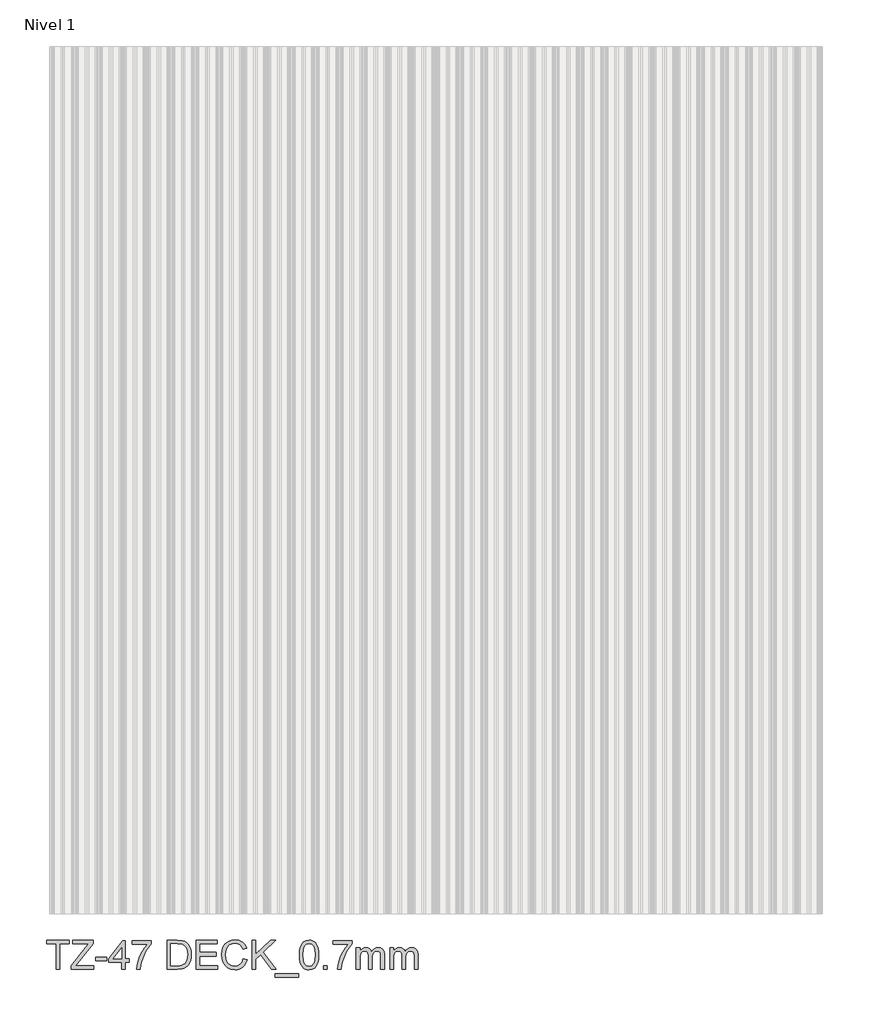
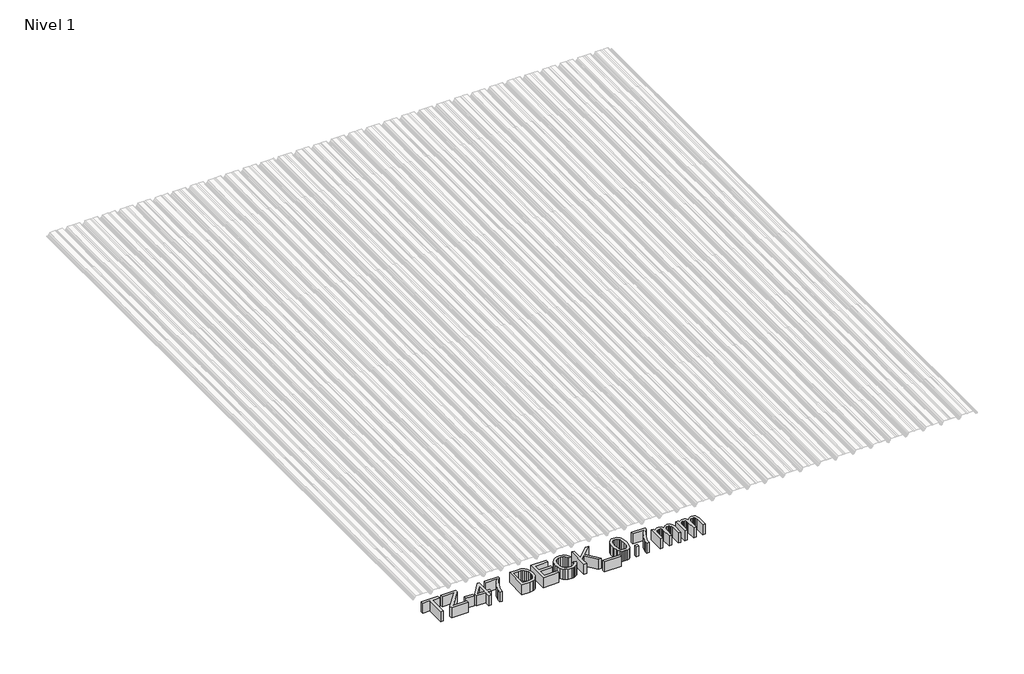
# One storey, part 3 of 4: 1 proxy, 1 roof.
"""IFC4 building model written with IfcOpenShell, lengths in millimetres."""

from ifc_helpers import new_model, si_unit, point, frame, frame_2d, origin, origin_with_axes, place, context, project, spatial, polyline, circle_curve, trimmed, segment, composite_curve, outline, extrude, element, save

model = new_model("IFC4")

# Units and contexts
model_context = context("Model", 3, world=origin())
ifc_project = project(units=[si_unit("LENGTHUNIT", "METRE", prefix="MILLI")], contexts=[model_context])

# Site, building, storey
site = spatial("IfcSite", under=ifc_project)
building = spatial("IfcBuilding", under=site)
storey = spatial("IfcBuildingStorey", under=building, Name="Nivel 1", Elevation=0.0)

# Proxy
placement = place(None, origin())
element("IfcBuildingElementProxy", 1, Name="Texto de modelo 1", ObjectType="Texto de modelo 1", at=placement, inside=storey, context=model_context, shape_type="SweptSolid", body=[
    extrude(outline(polyline([(-12104.9518456, -3789.0115797), (-12104.9518456, -3525.3137656), (-12203.8385259, -3525.3137656), (-12203.8385259, -3487.6426493), (-11968.394049, -3487.6426493), (-11968.394049, -3525.3137656), (-12067.2807293, -3525.3137656), (-12067.2807293, -3789.0115797), (-12104.9518456, -3789.0115797)])), origin_with_axes(), (0.0, 0.0, 1.0), 150.0),
    extrude(outline(polyline([(-11949.5584908, -3789.0115797), (-11949.5584908, -3749.9425118), (-11795.4159348, -3561.2190483), (-11766.132528, -3525.3137656), (-11930.7229326, -3525.3137656), (-11930.7229326, -3487.6426493), (-11718.8229034, -3487.6426493), (-11718.8229034, -3525.3137656), (-11887.5335864, -3731.8427177), (-11903.4260886, -3751.3404634), (-11714.1140139, -3751.3404634), (-11714.1140139, -3789.0115797), (-11949.5584908, -3789.0115797)])), origin_with_axes(), (0.0, 0.0, 1.0), 150.0),
    extrude(outline(polyline([(-11695.2784557, -3699.5426785), (-11695.2784557, -3661.8715622), (-11577.5562173, -3661.8715622), (-11577.5562173, -3699.5426785), (-11695.2784557, -3699.5426785)])), origin_with_axes(), (0.0, 0.0, 1.0), 150.0),
    extrude(outline(polyline([(-11422.1628625, -3789.0115797), (-11422.1628625, -3718.3782367), (-11558.7206591, -3718.3782367), (-11558.7206591, -3680.7071204), (-11412.7450834, -3492.3515388), (-11384.4917462, -3492.3515388), (-11384.4917462, -3680.7071204), (-11346.8206299, -3680.7071204), (-11346.8206299, -3718.3782367), (-11384.4917462, -3718.3782367), (-11384.4917462, -3789.0115797), (-11422.1628625, -3789.0115797)]), holes=[polyline([(-11422.1628625, -3680.7071204), (-11422.1628625, -3564.3092571), (-11512.3675277, -3680.7071204), (-11422.1628625, -3680.7071204)])]), origin_with_axes(), (0.0, 0.0, 1.0), 150.0),
    extrude(outline(polyline([(-11313.8584031, -3530.0226551), (-11313.8584031, -3492.3515388), (-11116.0850425, -3492.3515388), (-11116.0850425, -3522.812168), (-11144.2740004, -3558.4875245), (-11172.1870468, -3603.8565716), (-11196.8075493, -3654.7806367), (-11215.1188756, -3707.1210476), (-11224.0951963, -3746.282086), (-11229.0983914, -3789.0115797), (-11266.7695078, -3789.0115797), (-11262.6952147, -3750.1816351), (-11251.7967105, -3704.0308388), (-11234.368301, -3655.1117305), (-11210.7042917, -3607.9768499), (-11183.0763538, -3565.3669178), (-11153.7561588, -3530.0226551), (-11313.8584031, -3530.0226551)])), origin_with_axes(), (0.0, 0.0, 1.0), 150.0),
    extrude(outline(polyline([(-10951.2739087, -3789.0115797), (-10951.2739087, -3487.6426493), (-10847.3104568, -3487.6426493), (-10793.5261092, -3491.9836568), (-10769.5034149, -3500.3529722), (-10749.2331169, -3513.5415417), (-10728.3926019, -3536.4973782), (-10713.5485634, -3565.0450211), (-10704.6642132, -3598.6326472), (-10701.7027632, -3636.7084337), (-10703.70772, -3669.0544582), (-10709.7225907, -3697.5193275), (-10718.8828523, -3721.753554), (-10730.3239824, -3741.4076496), (-10743.4941578, -3756.9230727), (-10757.8415556, -3768.7412818), (-10774.313472, -3777.5060703), (-10793.857203, -3783.8612318), (-10842.3072617, -3789.0115797), (-10951.2739087, -3789.0115797)]), holes=[polyline([(-10913.6027924, -3751.3404634), (-10846.9425749, -3751.3404634), (-10819.3698193, -3749.9793), (-10798.4557279, -3745.8958099), (-10782.6735903, -3739.3291163), (-10770.4966963, -3730.5183425), (-10757.4092943, -3714.2119731), (-10747.577648, -3693.1047436), (-10741.4248216, -3667.1046836), (-10739.3738795, -3636.1198225), (-10743.3929903, -3595.0641919), (-10755.4503227, -3564.7507155), (-10773.2650083, -3543.9285945), (-10794.5561787, -3531.3470303), (-10816.2244283, -3526.8220818), (-10847.9726444, -3525.3137656), (-10913.6027924, -3525.3137656), (-10913.6027924, -3751.3404634)])]), origin_with_axes(), (0.0, 0.0, 1.0), 150.0),
    extrude(outline(polyline([(-10649.9049782, -3789.0115797), (-10649.9049782, -3487.6426493), (-10433.2960595, -3487.6426493), (-10433.2960595, -3525.3137656), (-10612.2338619, -3525.3137656), (-10612.2338619, -3614.7826668), (-10442.7138386, -3614.7826668), (-10442.7138386, -3652.4537831), (-10612.2338619, -3652.4537831), (-10612.2338619, -3751.3404634), (-10428.5871699, -3751.3404634), (-10428.5871699, -3789.0115797), (-10649.9049782, -3789.0115797)])), origin_with_axes(), (0.0, 0.0, 1.0), 150.0),
    extrude(outline(polyline([(-10160.1804663, -3681.8843427), (-10122.50935, -3691.5964274), (-10129.9635589, -3715.0236127), (-10139.8917742, -3735.4939465), (-10152.293996, -3753.0074287), (-10167.1702242, -3767.5640594), (-10184.1847664, -3779.0074887), (-10203.0019305, -3787.1813668), (-10223.6217163, -3792.0856937), (-10246.0441239, -3793.7204693), (-10289.7393079, -3788.7724564), (-10324.4397771, -3773.9284179), (-10351.0376454, -3749.7033885), (-10370.4250265, -3716.6124031), (-10382.2616297, -3677.7088821), (-10386.2071641, -3636.0462461), (-10381.7465949, -3592.1027418), (-10368.3648873, -3554.155714), (-10346.7610172, -3523.4099763), (-10317.6339602, -3501.0703421), (-10283.0898408, -3487.4679053), (-10245.2347835, -3482.9337597), (-10203.9308325, -3488.8014776), (-10185.9620963, -3496.1361248), (-10169.7821863, -3506.404631), (-10155.657817, -3519.3356832), (-10143.8557027, -3534.6579683), (-10127.2182395, -3572.4762374), (-10164.8893558, -3581.4525581), (-10177.9491666, -3553.9809701), (-10195.7914434, -3535.1362149), (-10218.6369153, -3524.2377108), (-10246.7063115, -3520.6048761), (-10279.061533, -3524.6331839), (-10305.6410072, -3536.7181074), (-10325.8101375, -3555.5904538), (-10338.9343277, -3579.9810301), (-10346.1356178, -3607.5537856), (-10348.5360478, -3635.9726697), (-10345.6941594, -3670.7743065), (-10337.1684941, -3700.8670537), (-10322.6371553, -3725.1012801), (-10301.7782462, -3742.3273545), (-10276.7714676, -3752.6188534), (-10249.7965203, -3756.049353), (-10218.3518067, -3751.3772516), (-10192.1494116, -3737.3609476), (-10172.3665573, -3714.1475937), (-10160.1804663, -3681.8843427)])), origin_with_axes(), (0.0, 0.0, 1.0), 150.0),
    extrude(outline(polyline([(-10070.711565, -3789.0115797), (-10070.711565, -3487.6426493), (-10033.0404487, -3487.6426493), (-10033.0404487, -3635.1633294), (-9878.5300108, -3487.6426493), (-9825.849309, -3487.6426493), (-9955.5645005, -3611.5453053), (-9821.1404195, -3789.0115797), (-9867.1992453, -3789.0115797), (-9982.2727334, -3637.0027393), (-10033.0404487, -3685.4160099), (-10033.0404487, -3789.0115797), (-10070.711565, -3789.0115797)])), origin_with_axes(), (0.0, 0.0, 1.0), 150.0),
    extrude(outline(polyline([(-9830.5581986, -3873.7715914), (-9830.5581986, -3836.1004751), (-9585.6959426, -3836.1004751), (-9585.6959426, -3873.7715914), (-9830.5581986, -3873.7715914)])), origin_with_axes(), (0.0, 0.0, 1.0), 150.0),
    extrude(outline(polyline([(-9576.2781635, -3640.7551357), (-9573.5098515, -3592.5166091), (-9565.2049155, -3554.0453494), (-9551.4461288, -3524.7527455), (-9532.3162651, -3504.0501863), (-9507.6773685, -3491.7445335), (-9477.3914832, -3487.6426493), (-9454.1781293, -3490.0706705), (-9433.3927966, -3497.354734), (-9416.0103723, -3509.2097313), (-9403.0057438, -3525.3505538), (-9393.1832945, -3545.6392458), (-9385.347408, -3569.9378516), (-9380.2154542, -3600.793954), (-9378.5048029, -3640.7551357), (-9381.2455238, -3688.7177508), (-9389.4676864, -3727.0970399), (-9403.1436995, -3756.417235), (-9422.2459721, -3777.2025677), (-9446.9400511, -3789.5909939), (-9477.3914832, -3793.7204693), (-9498.1400277, -3791.9270445), (-9516.5341275, -3786.5467704), (-9532.5737825, -3777.5796467), (-9546.2589927, -3765.0256736), (-9559.3923799, -3742.3319531), (-9568.7733708, -3714.0556232), (-9574.4019653, -3680.1966841), (-9576.2781635, -3640.7551357)]), holes=[polyline([(-9538.6070472, -3640.6815593), (-9534.1924633, -3699.9381517), (-9528.6742333, -3720.2061503), (-9520.9487114, -3734.2339507), (-9501.2302365, -3750.5955024), (-9477.3914832, -3756.049353), (-9453.5527299, -3750.5771083), (-9433.834255, -3734.1603743), (-9426.1087331, -3720.1095813), (-9420.5905032, -3699.8461812), (-9416.1759192, -3640.6815593), (-9420.4433504, -3582.7585391), (-9425.7776393, -3562.5572191), (-9433.2456438, -3548.1960257), (-9452.9273305, -3531.0343306), (-9477.8329416, -3525.3137656), (-9501.4141775, -3530.3537489), (-9520.3601002, -3545.4736989), (-9528.3431395, -3561.1086837), (-9534.0453105, -3582.188322), (-9538.6070472, -3640.6815593)])]), origin_with_axes(), (0.0, 0.0, 1.0), 150.0),
    extrude(outline(polyline([(-9326.707018, -3789.0115797), (-9326.707018, -3751.3404634), (-9289.0359017, -3751.3404634), (-9289.0359017, -3789.0115797), (-9326.707018, -3789.0115797)])), origin_with_axes(), (0.0, 0.0, 1.0), 150.0),
    extrude(outline(polyline([(-9227.8203377, -3530.0226551), (-9227.8203377, -3492.3515388), (-9030.0469771, -3492.3515388), (-9030.0469771, -3522.812168), (-9058.235935, -3558.4875245), (-9086.1489813, -3603.8565716), (-9110.7694839, -3654.7806367), (-9129.0808102, -3707.1210476), (-9138.0571309, -3746.282086), (-9143.060326, -3789.0115797), (-9180.7314423, -3789.0115797), (-9176.6571492, -3750.1816351), (-9165.7586451, -3704.0308388), (-9148.3302356, -3655.1117305), (-9124.6662262, -3607.9768499), (-9097.0382884, -3565.3669178), (-9067.7180934, -3530.0226551), (-9227.8203377, -3530.0226551)])), origin_with_axes(), (0.0, 0.0, 1.0), 150.0),
    extrude(outline(polyline([(-8987.6669712, -3789.0115797), (-8987.6669712, -3567.6937714), (-8949.9958549, -3567.6937714), (-8949.9958549, -3604.114089), (-8938.6650895, -3587.3846552), (-8924.0969625, -3574.2788591), (-8906.7881146, -3565.8083762), (-8887.2351865, -3562.9848819), (-8866.2843069, -3565.8635585), (-8849.4904938, -3574.4995883), (-8836.9457178, -3588.3227543), (-8828.7419493, -3606.7628393), (-8815.0107538, -3587.6099829), (-8799.3481779, -3573.9293713), (-8781.7542215, -3565.7210042), (-8762.2288846, -3562.9848819), (-8733.911168, -3567.5374216), (-8712.9694854, -3581.1950407), (-8700.0292363, -3604.3256211), (-8695.7158199, -3637.2970449), (-8695.7158199, -3789.0115797), (-8733.3869362, -3789.0115797), (-8733.3869362, -3653.4838527), (-8736.8818151, -3622.0299421), (-8741.7930398, -3613.3571241), (-8749.5369558, -3606.5421101), (-8759.4973608, -3602.1275262), (-8771.0580525, -3600.6559982), (-8791.4663062, -3604.4267887), (-8808.1037694, -3615.73916), (-8819.1678204, -3635.3656644), (-8822.8558374, -3664.0788542), (-8822.8558374, -3789.0115797), (-8860.5269537, -3789.0115797), (-8860.5269537, -3649.289998), (-8862.7066545, -3627.9896304), (-8869.245757, -3612.796104), (-8880.7512664, -3603.6910247), (-8897.830188, -3600.6559982), (-8912.3431327, -3602.6793492), (-8925.7156432, -3608.7494021), (-8936.7521031, -3618.7190042), (-8944.2568958, -3632.4410026), (-8948.5611151, -3651.4788958), (-8949.9958549, -3677.3961824), (-8949.9958549, -3789.0115797), (-8987.6669712, -3789.0115797)])), origin_with_axes(), (0.0, 0.0, 1.0), 150.0),
    extrude(outline(polyline([(-8639.2091454, -3789.0115797), (-8639.2091454, -3567.6937714), (-8601.5380291, -3567.6937714), (-8601.5380291, -3604.114089), (-8590.2072636, -3587.3846552), (-8575.6391366, -3574.2788591), (-8558.3302888, -3565.8083762), (-8538.7773607, -3562.9848819), (-8517.8264811, -3565.8635585), (-8501.032668, -3574.4995883), (-8488.487892, -3588.3227543), (-8480.2841235, -3606.7628393), (-8466.552928, -3587.6099829), (-8450.8903521, -3573.9293713), (-8433.2963956, -3565.7210042), (-8413.7710588, -3562.9848819), (-8385.4533422, -3567.5374216), (-8364.5116596, -3581.1950407), (-8351.5714104, -3604.3256211), (-8347.257994, -3637.2970449), (-8347.257994, -3789.0115797), (-8384.9291103, -3789.0115797), (-8384.9291103, -3653.4838527), (-8388.4239893, -3622.0299421), (-8393.3352139, -3613.3571241), (-8401.0791299, -3606.5421101), (-8411.0395349, -3602.1275262), (-8422.6002266, -3600.6559982), (-8443.0084803, -3604.4267887), (-8459.6459436, -3615.73916), (-8470.7099946, -3635.3656644), (-8474.3980116, -3664.0788542), (-8474.3980116, -3789.0115797), (-8512.0691279, -3789.0115797), (-8512.0691279, -3649.289998), (-8514.2488287, -3627.9896304), (-8520.7879312, -3612.796104), (-8532.2934406, -3603.6910247), (-8549.3723622, -3600.6559982), (-8563.8853069, -3602.6793492), (-8577.2578174, -3608.7494021), (-8588.2942773, -3618.7190042), (-8595.79907, -3632.4410026), (-8600.1032893, -3651.4788958), (-8601.5380291, -3677.3961824), (-8601.5380291, -3789.0115797), (-8639.2091454, -3789.0115797)])), origin_with_axes(), (0.0, 0.0, 1.0), 150.0),
])

# Roof
element("IfcRoof", 2, ObjectType="Panel_TZ-47 DECK : TZ-47 DECK_0.7mm", at=placement, inside=storey, context=model_context, shape_type="SweptSolid", body=[
    extrude(outline(composite_curve([segment(trimmed(circle_curve(frame_2d((44.0, -4199.974182)), 2.5), [point((46.5, -4199.974182))], [point((44.9953639, -4197.6808764))], True, "CARTESIAN"), True, "CONTINUOUS"), segment(polyline([(44.9953639, -4197.6808764), (19.8835868, -4186.7816062)]), True, "CONTINUOUS"), segment(trimmed(circle_curve(frame_2d((21.0780235, -4184.0296395)), 3.0), [point((19.8835868, -4186.7816062))], [point((18.397439, -4185.3766608))], False, "CARTESIAN"), True, "CONTINUOUS"), segment(polyline([(18.397439, -4185.3766608), (14.779315, -4178.1765619)]), True, "CONTINUOUS"), segment(trimmed(circle_curve(frame_2d((12.9922586, -4179.0745762)), 2.0), [point((14.779315, -4178.1765619))], [point((13.6209063, -4177.1759445))], True, "CARTESIAN"), True, "CONTINUOUS"), segment(polyline([(13.6209063, -4177.1759445), (2.3998665, -4173.4605946)]), True, "CONTINUOUS"), segment(trimmed(circle_curve(frame_2d((3.5, -4170.1379893)), 3.5), [point((2.3998665, -4173.4605946))], [point((0.0, -4170.1379893))], False, "CARTESIAN"), True, "CONTINUOUS"), segment(polyline([(0.0, -4170.1379893), (0.0, -4155.1939812)]), True, "CONTINUOUS"), segment(trimmed(circle_curve(frame_2d((3.5, -4155.1939812)), 3.5), [point((0.0, -4155.1939812))], [point((2.3998665, -4151.8713758))], False, "CARTESIAN"), True, "CONTINUOUS"), segment(polyline([(2.3998665, -4151.8713758), (7.5945265, -4150.1513944)]), True, "CONTINUOUS"), segment(trimmed(circle_curve(frame_2d((8.2231742, -4152.0500261)), 2.0), [point((7.5945265, -4150.1513944))], [point((9.1194865, -4150.2621155))], False, "CARTESIAN"), True, "CONTINUOUS"), segment(trimmed(circle_curve(frame_2d((9.5655913, -4149.3598691)), 1.0065078), [point((9.1194865, -4150.2621155))], [point((9.8819608, -4150.3153629))], True, "CARTESIAN"), True, "CONTINUOUS"), segment(polyline([(9.8819608, -4150.3153629), (13.4343573, -4149.1391443), (13.6858163, -4149.8985969), (10.1334198, -4151.0748156)]), True, "CONTINUOUS"), segment(trimmed(circle_curve(frame_2d((9.5655913, -4149.3598691)), 1.8065078), [point((10.1334198, -4151.0748156))], [point((8.7624057, -4150.9780049))], False, "CARTESIAN"), True, "CONTINUOUS"), segment(trimmed(circle_curve(frame_2d((8.2231742, -4152.0500261)), 1.2), [point((8.7624057, -4150.9780049))], [point((7.8459856, -4150.9108471))], True, "CARTESIAN"), True, "CONTINUOUS"), segment(polyline([(7.8459856, -4150.9108471), (2.6513256, -4152.6308285)]), True, "CONTINUOUS"), segment(trimmed(circle_curve(frame_2d((3.5, -4155.1939812)), 2.7), [point((2.6513256, -4152.6308285))], [point((0.8, -4155.1939812))], True, "CARTESIAN"), True, "CONTINUOUS"), segment(polyline([(0.8, -4155.1939812), (0.8, -4170.1379893)]), True, "CONTINUOUS"), segment(trimmed(circle_curve(frame_2d((3.5, -4170.1379893)), 2.7), [point((0.8, -4170.1379893))], [point((2.6513256, -4172.701142))], True, "CARTESIAN"), True, "CONTINUOUS"), segment(polyline([(2.6513256, -4172.701142), (13.8723654, -4176.4164919)]), True, "CONTINUOUS"), segment(trimmed(circle_curve(frame_2d((12.9922586, -4179.0745762)), 2.8), [point((13.8723654, -4176.4164919))], [point((15.4941375, -4177.8173562))], False, "CARTESIAN"), True, "CONTINUOUS"), segment(polyline([(15.4941375, -4177.8173562), (19.1122615, -4185.0174551)]), True, "CONTINUOUS"), segment(trimmed(circle_curve(frame_2d((21.0780235, -4184.0296395)), 2.2), [point((19.1122615, -4185.0174551))], [point((20.2021032, -4186.0477484))], True, "CARTESIAN"), True, "CONTINUOUS"), segment(polyline([(20.2021032, -4186.0477484), (45.3138804, -4196.9470186)]), True, "CONTINUOUS"), segment(trimmed(circle_curve(frame_2d((44.0, -4199.974182)), 3.3), [point((45.3138804, -4196.9470186))], [point((47.3, -4199.974182))], False, "CARTESIAN"), True, "CONTINUOUS"), segment(polyline([(47.3, -4199.974182), (47.3, -4267.6956911), (43.3922323, -4287.2345297)]), True, "CONTINUOUS"), segment(trimmed(circle_curve(frame_2d((45.5495098, -4287.6659852)), 2.2), [point((43.3922323, -4287.2345297))], [point((43.3922323, -4288.0974407))], True, "CARTESIAN"), True, "CONTINUOUS"), segment(polyline([(43.3922323, -4288.0974407), (47.3, -4307.6362794), (47.3, -4375.3577884)]), True, "CONTINUOUS"), segment(trimmed(circle_curve(frame_2d((44.0, -4375.3577884)), 3.3), [point((47.3, -4375.3577884))], [point((45.3138804, -4378.3849518))], False, "CARTESIAN"), True, "CONTINUOUS"), segment(polyline([(45.3138804, -4378.3849518), (20.2021032, -4389.284222)]), True, "CONTINUOUS"), segment(trimmed(circle_curve(frame_2d((21.0780235, -4391.302331)), 2.2), [point((20.2021032, -4389.284222))], [point((19.1122615, -4390.3145153))], True, "CARTESIAN"), True, "CONTINUOUS"), segment(polyline([(19.1122615, -4390.3145153), (15.4941375, -4397.5146142)]), True, "CONTINUOUS"), segment(trimmed(circle_curve(frame_2d((12.9922586, -4396.2573943)), 2.8), [point((15.4941375, -4397.5146142))], [point((13.8723654, -4398.9154786))], False, "CARTESIAN"), True, "CONTINUOUS"), segment(polyline([(13.8723654, -4398.9154786), (2.6513256, -4402.6308285)]), True, "CONTINUOUS"), segment(trimmed(circle_curve(frame_2d((3.5, -4405.1939812)), 2.7), [point((2.6513256, -4402.6308285))], [point((0.8, -4405.1939812))], True, "CARTESIAN"), True, "CONTINUOUS"), segment(polyline([(0.8, -4405.1939812), (0.8, -4420.1379893)]), True, "CONTINUOUS"), segment(trimmed(circle_curve(frame_2d((3.5, -4420.1379893)), 2.7), [point((0.8, -4420.1379893))], [point((2.6513256, -4422.701142))], True, "CARTESIAN"), True, "CONTINUOUS"), segment(polyline([(2.6513256, -4422.701142), (13.8723654, -4426.4164919)]), True, "CONTINUOUS"), segment(trimmed(circle_curve(frame_2d((12.9922586, -4429.0745762)), 2.8), [point((13.8723654, -4426.4164919))], [point((15.4941375, -4427.8173562))], False, "CARTESIAN"), True, "CONTINUOUS"), segment(polyline([(15.4941375, -4427.8173562), (19.1122615, -4435.0174551)]), True, "CONTINUOUS"), segment(trimmed(circle_curve(frame_2d((21.0780235, -4434.0296395)), 2.2), [point((19.1122615, -4435.0174551))], [point((20.2021032, -4436.0477484))], True, "CARTESIAN"), True, "CONTINUOUS"), segment(polyline([(20.2021032, -4436.0477484), (45.3138804, -4446.9470186)]), True, "CONTINUOUS"), segment(trimmed(circle_curve(frame_2d((44.0, -4449.974182)), 3.3), [point((45.3138804, -4446.9470186))], [point((47.3, -4449.974182))], False, "CARTESIAN"), True, "CONTINUOUS"), segment(polyline([(47.3, -4449.974182), (47.3, -4517.6956911), (43.3922323, -4537.2345297)]), True, "CONTINUOUS"), segment(trimmed(circle_curve(frame_2d((45.5495098, -4537.6659852)), 2.2), [point((43.3922323, -4537.2345297))], [point((43.3922323, -4538.0974407))], True, "CARTESIAN"), True, "CONTINUOUS"), segment(polyline([(43.3922323, -4538.0974407), (47.3, -4557.6362794), (47.3, -4625.3577884)]), True, "CONTINUOUS"), segment(trimmed(circle_curve(frame_2d((44.0, -4625.3577884)), 3.3), [point((47.3, -4625.3577884))], [point((45.3138804, -4628.3849518))], False, "CARTESIAN"), True, "CONTINUOUS"), segment(polyline([(45.3138804, -4628.3849518), (20.2021032, -4639.284222)]), True, "CONTINUOUS"), segment(trimmed(circle_curve(frame_2d((21.0780235, -4641.302331)), 2.2), [point((20.2021032, -4639.284222))], [point((19.1122615, -4640.3145153))], True, "CARTESIAN"), True, "CONTINUOUS"), segment(polyline([(19.1122615, -4640.3145153), (15.4941375, -4647.5146142)]), True, "CONTINUOUS"), segment(trimmed(circle_curve(frame_2d((12.9922586, -4646.2573943)), 2.8), [point((15.4941375, -4647.5146142))], [point((13.8723654, -4648.9154786))], False, "CARTESIAN"), True, "CONTINUOUS"), segment(polyline([(13.8723654, -4648.9154786), (2.6513256, -4652.6308285)]), True, "CONTINUOUS"), segment(trimmed(circle_curve(frame_2d((3.5, -4655.1939812)), 2.7), [point((2.6513256, -4652.6308285))], [point((0.8, -4655.1939812))], True, "CARTESIAN"), True, "CONTINUOUS"), segment(polyline([(0.8, -4655.1939812), (0.8, -4670.1379893)]), True, "CONTINUOUS"), segment(trimmed(circle_curve(frame_2d((3.5, -4670.1379893)), 2.7), [point((0.8, -4670.1379893))], [point((2.6513256, -4672.701142))], True, "CARTESIAN"), True, "CONTINUOUS"), segment(polyline([(2.6513256, -4672.701142), (13.8723654, -4676.4164919)]), True, "CONTINUOUS"), segment(trimmed(circle_curve(frame_2d((12.9922586, -4679.0745762)), 2.8), [point((13.8723654, -4676.4164919))], [point((15.4941375, -4677.8173562))], False, "CARTESIAN"), True, "CONTINUOUS"), segment(polyline([(15.4941375, -4677.8173562), (19.1122615, -4685.0174551)]), True, "CONTINUOUS"), segment(trimmed(circle_curve(frame_2d((21.0780235, -4684.0296395)), 2.2), [point((19.1122615, -4685.0174551))], [point((20.2021032, -4686.0477484))], True, "CARTESIAN"), True, "CONTINUOUS"), segment(polyline([(20.2021032, -4686.0477484), (45.3138804, -4696.9470186)]), True, "CONTINUOUS"), segment(trimmed(circle_curve(frame_2d((44.0, -4699.974182)), 3.3), [point((45.3138804, -4696.9470186))], [point((47.3, -4699.974182))], False, "CARTESIAN"), True, "CONTINUOUS"), segment(polyline([(47.3, -4699.974182), (47.3, -4767.6956911), (43.3922323, -4787.2345297)]), True, "CONTINUOUS"), segment(trimmed(circle_curve(frame_2d((45.5495098, -4787.6659852)), 2.2), [point((43.3922323, -4787.2345297))], [point((43.3922323, -4788.0974407))], True, "CARTESIAN"), True, "CONTINUOUS"), segment(polyline([(43.3922323, -4788.0974407), (47.3, -4807.6362794), (47.3, -4875.3577884)]), True, "CONTINUOUS"), segment(trimmed(circle_curve(frame_2d((44.0, -4875.3577884)), 3.3), [point((47.3, -4875.3577884))], [point((45.3138804, -4878.3849518))], False, "CARTESIAN"), True, "CONTINUOUS"), segment(polyline([(45.3138804, -4878.3849518), (20.2021032, -4889.284222)]), True, "CONTINUOUS"), segment(trimmed(circle_curve(frame_2d((21.0780235, -4891.302331)), 2.2), [point((20.2021032, -4889.284222))], [point((19.1122615, -4890.3145153))], True, "CARTESIAN"), True, "CONTINUOUS"), segment(polyline([(19.1122615, -4890.3145153), (15.4941375, -4897.5146142)]), True, "CONTINUOUS"), segment(trimmed(circle_curve(frame_2d((12.9922586, -4896.2573943)), 2.8), [point((15.4941375, -4897.5146142))], [point((13.8723654, -4898.9154786))], False, "CARTESIAN"), True, "CONTINUOUS"), segment(polyline([(13.8723654, -4898.9154786), (2.6513256, -4902.6308285)]), True, "CONTINUOUS"), segment(trimmed(circle_curve(frame_2d((3.5, -4905.1939812)), 2.7), [point((2.6513256, -4902.6308285))], [point((0.8, -4905.1939812))], True, "CARTESIAN"), True, "CONTINUOUS"), segment(polyline([(0.8, -4905.1939812), (0.8, -4920.1379893)]), True, "CONTINUOUS"), segment(trimmed(circle_curve(frame_2d((3.5, -4920.1379893)), 2.7), [point((0.8, -4920.1379893))], [point((2.6513256, -4922.701142))], True, "CARTESIAN"), True, "CONTINUOUS"), segment(polyline([(2.6513256, -4922.701142), (13.8723654, -4926.4164919)]), True, "CONTINUOUS"), segment(trimmed(circle_curve(frame_2d((12.9922586, -4929.0745762)), 2.8), [point((13.8723654, -4926.4164919))], [point((15.4941375, -4927.8173562))], False, "CARTESIAN"), True, "CONTINUOUS"), segment(polyline([(15.4941375, -4927.8173562), (19.1122615, -4935.0174551)]), True, "CONTINUOUS"), segment(trimmed(circle_curve(frame_2d((21.0780235, -4934.0296395)), 2.2), [point((19.1122615, -4935.0174551))], [point((20.2021032, -4936.0477484))], True, "CARTESIAN"), True, "CONTINUOUS"), segment(polyline([(20.2021032, -4936.0477484), (45.3138804, -4946.9470186)]), True, "CONTINUOUS"), segment(trimmed(circle_curve(frame_2d((44.0, -4949.974182)), 3.3), [point((45.3138804, -4946.9470186))], [point((47.3, -4949.974182))], False, "CARTESIAN"), True, "CONTINUOUS"), segment(polyline([(47.3, -4949.974182), (47.3, -5017.6956911), (43.3922323, -5037.2345297)]), True, "CONTINUOUS"), segment(trimmed(circle_curve(frame_2d((45.5495098, -5037.6659852)), 2.2), [point((43.3922323, -5037.2345297))], [point((43.3922323, -5038.0974407))], True, "CARTESIAN"), True, "CONTINUOUS"), segment(polyline([(43.3922323, -5038.0974407), (47.3, -5057.6362794), (47.3, -5125.3577884)]), True, "CONTINUOUS"), segment(trimmed(circle_curve(frame_2d((44.0, -5125.3577884)), 3.3), [point((47.3, -5125.3577884))], [point((45.3138804, -5128.3849518))], False, "CARTESIAN"), True, "CONTINUOUS"), segment(polyline([(45.3138804, -5128.3849518), (20.2021032, -5139.284222)]), True, "CONTINUOUS"), segment(trimmed(circle_curve(frame_2d((21.0780235, -5141.302331)), 2.2), [point((20.2021032, -5139.284222))], [point((19.1122615, -5140.3145153))], True, "CARTESIAN"), True, "CONTINUOUS"), segment(polyline([(19.1122615, -5140.3145153), (14.5899257, -5149.3140039)]), True, "CONTINUOUS"), segment(trimmed(circle_curve(frame_2d((12.0880468, -5148.056784)), 2.8), [point((14.5899257, -5149.3140039))], [point((12.9681535, -5150.7148682))], False, "CARTESIAN"), True, "CONTINUOUS"), segment(polyline([(12.9681535, -5150.7148682), (4.1513256, -5153.63417)]), True, "CONTINUOUS"), segment(trimmed(circle_curve(frame_2d((5.0, -5156.1973227)), 2.7), [point((4.1513256, -5153.63417))], [point((2.3, -5156.1973227))], True, "CARTESIAN"), True, "CONTINUOUS"), segment(polyline([(2.3, -5156.1973227), (2.3, -5168.9091577)]), True, "CONTINUOUS"), segment(trimmed(circle_curve(frame_2d((4.0, -5168.9091577)), 1.7), [point((2.3, -5168.9091577))], [point((3.4656495, -5170.5229946))], True, "CARTESIAN"), True, "CONTINUOUS"), segment(polyline([(3.4656495, -5170.5229946), (5.3642811, -5171.1516423), (5.112822, -5171.911095), (3.2141904, -5171.2824473)]), True, "CONTINUOUS"), segment(trimmed(circle_curve(frame_2d((4.0, -5168.9091577)), 2.5), [point((3.2141904, -5171.2824473))], [point((1.5, -5168.9091577))], False, "CARTESIAN"), True, "CONTINUOUS"), segment(polyline([(1.5, -5168.9091577), (1.5, -5156.1973227)]), True, "CONTINUOUS"), segment(trimmed(circle_curve(frame_2d((5.0, -5156.1973227)), 3.5), [point((1.5, -5156.1973227))], [point((3.8998665, -5152.8747173))], False, "CARTESIAN"), True, "CONTINUOUS"), segment(polyline([(3.8998665, -5152.8747173), (12.7166945, -5149.9554156)]), True, "CONTINUOUS"), segment(trimmed(circle_curve(frame_2d((12.0880468, -5148.056784)), 2.0), [point((12.7166945, -5149.9554156))], [point((13.8751031, -5148.9547982))], True, "CARTESIAN"), True, "CONTINUOUS"), segment(polyline([(13.8751031, -5148.9547982), (18.397439, -5139.9553096)]), True, "CONTINUOUS"), segment(trimmed(circle_curve(frame_2d((21.0780235, -5141.302331)), 3.0), [point((18.397439, -5139.9553096))], [point((19.8835868, -5138.5503642))], False, "CARTESIAN"), True, "CONTINUOUS"), segment(polyline([(19.8835868, -5138.5503642), (44.9953639, -5127.651094)]), True, "CONTINUOUS"), segment(trimmed(circle_curve(frame_2d((44.0, -5125.3577884)), 2.5), [point((44.9953639, -5127.651094))], [point((46.5, -5125.3577884))], True, "CARTESIAN"), True, "CONTINUOUS"), segment(polyline([(46.5, -5125.3577884), (46.5, -5057.715495), (42.6077677, -5038.2543336)]), True, "CONTINUOUS"), segment(trimmed(circle_curve(frame_2d((45.5495098, -5037.6659852)), 3.0), [point((42.6077677, -5038.2543336))], [point((42.6077677, -5037.0776368))], False, "CARTESIAN"), True, "CONTINUOUS"), segment(polyline([(42.6077677, -5037.0776368), (46.5, -5017.6164755), (46.5, -4949.974182)]), True, "CONTINUOUS"), segment(trimmed(circle_curve(frame_2d((44.0, -4949.974182)), 2.5), [point((46.5, -4949.974182))], [point((44.9953639, -4947.6808764))], True, "CARTESIAN"), True, "CONTINUOUS"), segment(polyline([(44.9953639, -4947.6808764), (19.8835868, -4936.7816062)]), True, "CONTINUOUS"), segment(trimmed(circle_curve(frame_2d((21.0780235, -4934.0296395)), 3.0), [point((19.8835868, -4936.7816062))], [point((18.397439, -4935.3766608))], False, "CARTESIAN"), True, "CONTINUOUS"), segment(polyline([(18.397439, -4935.3766608), (14.779315, -4928.1765619)]), True, "CONTINUOUS"), segment(trimmed(circle_curve(frame_2d((12.9922586, -4929.0745762)), 2.0), [point((14.779315, -4928.1765619))], [point((13.6209063, -4927.1759445))], True, "CARTESIAN"), True, "CONTINUOUS"), segment(polyline([(13.6209063, -4927.1759445), (2.3998665, -4923.4605946)]), True, "CONTINUOUS"), segment(trimmed(circle_curve(frame_2d((3.5, -4920.1379893)), 3.5), [point((2.3998665, -4923.4605946))], [point((0.0, -4920.1379893))], False, "CARTESIAN"), True, "CONTINUOUS"), segment(polyline([(0.0, -4920.1379893), (0.0, -4905.1939812)]), True, "CONTINUOUS"), segment(trimmed(circle_curve(frame_2d((3.5, -4905.1939812)), 3.5), [point((0.0, -4905.1939812))], [point((2.3998665, -4901.8713758))], False, "CARTESIAN"), True, "CONTINUOUS"), segment(polyline([(2.3998665, -4901.8713758), (13.6209063, -4898.1560259)]), True, "CONTINUOUS"), segment(trimmed(circle_curve(frame_2d((12.9922586, -4896.2573943)), 2.0), [point((13.6209063, -4898.1560259))], [point((14.779315, -4897.1554085))], True, "CARTESIAN"), True, "CONTINUOUS"), segment(polyline([(14.779315, -4897.1554085), (18.397439, -4889.9553096)]), True, "CONTINUOUS"), segment(trimmed(circle_curve(frame_2d((21.0780235, -4891.302331)), 3.0), [point((18.397439, -4889.9553096))], [point((19.8835868, -4888.5503642))], False, "CARTESIAN"), True, "CONTINUOUS"), segment(polyline([(19.8835868, -4888.5503642), (44.9953639, -4877.651094)]), True, "CONTINUOUS"), segment(trimmed(circle_curve(frame_2d((44.0, -4875.3577884)), 2.5), [point((44.9953639, -4877.651094))], [point((46.5, -4875.3577884))], True, "CARTESIAN"), True, "CONTINUOUS"), segment(polyline([(46.5, -4875.3577884), (46.5, -4807.715495), (42.6077677, -4788.2543336)]), True, "CONTINUOUS"), segment(trimmed(circle_curve(frame_2d((45.5495098, -4787.6659852)), 3.0), [point((42.6077677, -4788.2543336))], [point((42.6077677, -4787.0776368))], False, "CARTESIAN"), True, "CONTINUOUS"), segment(polyline([(42.6077677, -4787.0776368), (46.5, -4767.6164755), (46.5, -4699.974182)]), True, "CONTINUOUS"), segment(trimmed(circle_curve(frame_2d((44.0, -4699.974182)), 2.5), [point((46.5, -4699.974182))], [point((44.9953639, -4697.6808764))], True, "CARTESIAN"), True, "CONTINUOUS"), segment(polyline([(44.9953639, -4697.6808764), (19.8835868, -4686.7816062)]), True, "CONTINUOUS"), segment(trimmed(circle_curve(frame_2d((21.0780235, -4684.0296395)), 3.0), [point((19.8835868, -4686.7816062))], [point((18.397439, -4685.3766608))], False, "CARTESIAN"), True, "CONTINUOUS"), segment(polyline([(18.397439, -4685.3766608), (14.779315, -4678.1765619)]), True, "CONTINUOUS"), segment(trimmed(circle_curve(frame_2d((12.9922586, -4679.0745762)), 2.0), [point((14.779315, -4678.1765619))], [point((13.6209063, -4677.1759445))], True, "CARTESIAN"), True, "CONTINUOUS"), segment(polyline([(13.6209063, -4677.1759445), (2.3998665, -4673.4605946)]), True, "CONTINUOUS"), segment(trimmed(circle_curve(frame_2d((3.5, -4670.1379893)), 3.5), [point((2.3998665, -4673.4605946))], [point((0.0, -4670.1379893))], False, "CARTESIAN"), True, "CONTINUOUS"), segment(polyline([(0.0, -4670.1379893), (0.0, -4655.1939812)]), True, "CONTINUOUS"), segment(trimmed(circle_curve(frame_2d((3.5, -4655.1939812)), 3.5), [point((0.0, -4655.1939812))], [point((2.3998665, -4651.8713758))], False, "CARTESIAN"), True, "CONTINUOUS"), segment(polyline([(2.3998665, -4651.8713758), (13.6209063, -4648.1560259)]), True, "CONTINUOUS"), segment(trimmed(circle_curve(frame_2d((12.9922586, -4646.2573943)), 2.0), [point((13.6209063, -4648.1560259))], [point((14.779315, -4647.1554085))], True, "CARTESIAN"), True, "CONTINUOUS"), segment(polyline([(14.779315, -4647.1554085), (18.397439, -4639.9553096)]), True, "CONTINUOUS"), segment(trimmed(circle_curve(frame_2d((21.0780235, -4641.302331)), 3.0), [point((18.397439, -4639.9553096))], [point((19.8835868, -4638.5503642))], False, "CARTESIAN"), True, "CONTINUOUS"), segment(polyline([(19.8835868, -4638.5503642), (44.9953639, -4627.651094)]), True, "CONTINUOUS"), segment(trimmed(circle_curve(frame_2d((44.0, -4625.3577884)), 2.5), [point((44.9953639, -4627.651094))], [point((46.5, -4625.3577884))], True, "CARTESIAN"), True, "CONTINUOUS"), segment(polyline([(46.5, -4625.3577884), (46.5, -4557.715495), (42.6077677, -4538.2543336)]), True, "CONTINUOUS"), segment(trimmed(circle_curve(frame_2d((45.5495098, -4537.6659852)), 3.0), [point((42.6077677, -4538.2543336))], [point((42.6077677, -4537.0776368))], False, "CARTESIAN"), True, "CONTINUOUS"), segment(polyline([(42.6077677, -4537.0776368), (46.5, -4517.6164755), (46.5, -4449.974182)]), True, "CONTINUOUS"), segment(trimmed(circle_curve(frame_2d((44.0, -4449.974182)), 2.5), [point((46.5, -4449.974182))], [point((44.9953639, -4447.6808764))], True, "CARTESIAN"), True, "CONTINUOUS"), segment(polyline([(44.9953639, -4447.6808764), (19.8835868, -4436.7816062)]), True, "CONTINUOUS"), segment(trimmed(circle_curve(frame_2d((21.0780235, -4434.0296395)), 3.0), [point((19.8835868, -4436.7816062))], [point((18.397439, -4435.3766608))], False, "CARTESIAN"), True, "CONTINUOUS"), segment(polyline([(18.397439, -4435.3766608), (14.779315, -4428.1765619)]), True, "CONTINUOUS"), segment(trimmed(circle_curve(frame_2d((12.9922586, -4429.0745762)), 2.0), [point((14.779315, -4428.1765619))], [point((13.6209063, -4427.1759445))], True, "CARTESIAN"), True, "CONTINUOUS"), segment(polyline([(13.6209063, -4427.1759445), (2.3998665, -4423.4605946)]), True, "CONTINUOUS"), segment(trimmed(circle_curve(frame_2d((3.5, -4420.1379893)), 3.5), [point((2.3998665, -4423.4605946))], [point((0.0, -4420.1379893))], False, "CARTESIAN"), True, "CONTINUOUS"), segment(polyline([(0.0, -4420.1379893), (0.0, -4405.1939812)]), True, "CONTINUOUS"), segment(trimmed(circle_curve(frame_2d((3.5, -4405.1939812)), 3.5), [point((0.0, -4405.1939812))], [point((2.3998665, -4401.8713758))], False, "CARTESIAN"), True, "CONTINUOUS"), segment(polyline([(2.3998665, -4401.8713758), (13.6209063, -4398.1560259)]), True, "CONTINUOUS"), segment(trimmed(circle_curve(frame_2d((12.9922586, -4396.2573943)), 2.0), [point((13.6209063, -4398.1560259))], [point((14.779315, -4397.1554085))], True, "CARTESIAN"), True, "CONTINUOUS"), segment(polyline([(14.779315, -4397.1554085), (18.397439, -4389.9553096)]), True, "CONTINUOUS"), segment(trimmed(circle_curve(frame_2d((21.0780235, -4391.302331)), 3.0), [point((18.397439, -4389.9553096))], [point((19.8835868, -4388.5503642))], False, "CARTESIAN"), True, "CONTINUOUS"), segment(polyline([(19.8835868, -4388.5503642), (44.9953639, -4377.651094)]), True, "CONTINUOUS"), segment(trimmed(circle_curve(frame_2d((44.0, -4375.3577884)), 2.5), [point((44.9953639, -4377.651094))], [point((46.5, -4375.3577884))], True, "CARTESIAN"), True, "CONTINUOUS"), segment(polyline([(46.5, -4375.3577884), (46.5, -4307.715495), (42.6077677, -4288.2543336)]), True, "CONTINUOUS"), segment(trimmed(circle_curve(frame_2d((45.5495098, -4287.6659852)), 3.0), [point((42.6077677, -4288.2543336))], [point((42.6077677, -4287.0776368))], False, "CARTESIAN"), True, "CONTINUOUS"), segment(polyline([(42.6077677, -4287.0776368), (46.5, -4267.6164755), (46.5, -4199.974182)]), True, "CONTINUOUS")], self_intersect=False)), frame((0.0, -3212.7855956, 0.0), z_axis=(0.0, 1.0, 0.0), x_axis=(0.0, 0.0, 1.0)), (0.0, 0.0, 1.0), 9000.0),
])

save(model, "model.ifc")
